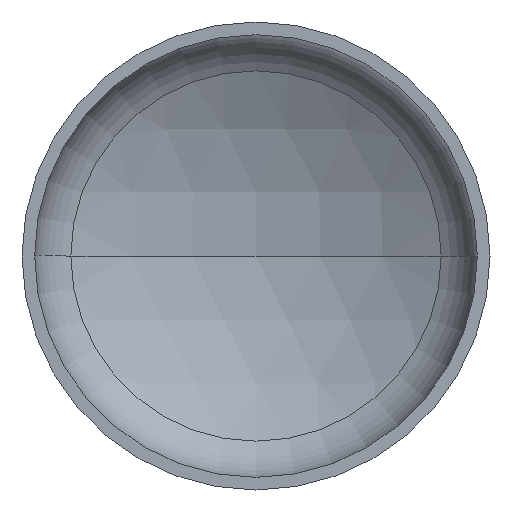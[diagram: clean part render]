
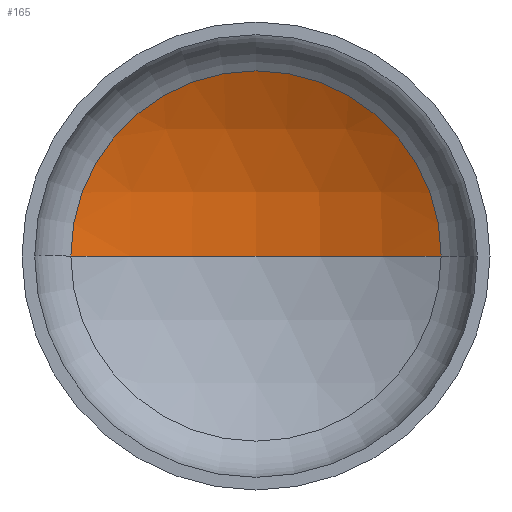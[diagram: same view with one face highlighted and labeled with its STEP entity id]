
A CAD part, front view. The second image highlights one B-rep face of the part: STEP entity #165.
In plain terms, the highlighted spherical face has radius 1360 mm.
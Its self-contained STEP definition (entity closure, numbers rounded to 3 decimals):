
#2 = VERTEX_POINT ( 'NONE', #277 ) ;
#6 = DIRECTION ( 'NONE',  ( 1., 0., 0. ) ) ;
#13 = EDGE_LOOP ( 'NONE', ( #27, #30, #145 ) ) ;
#18 = DIRECTION ( 'NONE',  ( -1., 0., 0. ) ) ;
#23 = AXIS2_PLACEMENT_3D ( 'NONE', #271, #226, #292 ) ;
#27 = ORIENTED_EDGE ( 'NONE', *, *, #104, .F. ) ;
#28 = AXIS2_PLACEMENT_3D ( 'NONE', #209, #354, #375 ) ;
#30 = ORIENTED_EDGE ( 'NONE', *, *, #101, .T. ) ;
#31 = DIRECTION ( 'NONE',  ( 0., 0., -1. ) ) ;
#34 = VERTEX_POINT ( 'NONE', #293 ) ;
#35 = AXIS2_PLACEMENT_3D ( 'NONE', #37, #31, #18 ) ;
#37 = CARTESIAN_POINT ( 'NONE',  ( 0., -816.067, 0. ) ) ;
#40 = AXIS2_PLACEMENT_3D ( 'NONE', #128, #299, #6 ) ;
#100 = EDGE_CURVE ( 'NONE', #116, #2, #314, .T. ) ;
#101 = EDGE_CURVE ( 'NONE', #34, #116, #253, .T. ) ;
#104 = EDGE_CURVE ( 'NONE', #34, #2, #121, .T. ) ;
#116 = VERTEX_POINT ( 'NONE', #203 ) ;
#121 = CIRCLE ( 'NONE', #28, 1360. ) ;
#128 = CARTESIAN_POINT ( 'NONE',  ( 0., 365.979, 0. ) ) ;
#145 = ORIENTED_EDGE ( 'NONE', *, *, #100, .T. ) ;
#165 = ADVANCED_FACE ( 'NONE', ( #248 ), #191, .F. ) ;
#191 = SPHERICAL_SURFACE ( 'NONE', #23, 1360. ) ;
#203 = CARTESIAN_POINT ( 'NONE',  ( 672.582, 365.979, 0. ) ) ;
#209 = CARTESIAN_POINT ( 'NONE',  ( 0., -816.067, 0. ) ) ;
#226 = DIRECTION ( 'NONE',  ( 0., 0., -1. ) ) ;
#248 = FACE_OUTER_BOUND ( 'NONE', #13, .T. ) ;
#253 = CIRCLE ( 'NONE', #35, 1360. ) ;
#271 = CARTESIAN_POINT ( 'NONE',  ( 0., -816.067, 0. ) ) ;
#277 = CARTESIAN_POINT ( 'NONE',  ( -672.582, 365.979, 0. ) ) ;
#292 = DIRECTION ( 'NONE',  ( -1., 0., 0. ) ) ;
#293 = CARTESIAN_POINT ( 'NONE',  ( 0., 543.933, 0. ) ) ;
#299 = DIRECTION ( 'NONE',  ( 0., -1., 0. ) ) ;
#314 = CIRCLE ( 'NONE', #40, 672.582 ) ;
#354 = DIRECTION ( 'NONE',  ( 0., 0., 1. ) ) ;
#375 = DIRECTION ( 'NONE',  ( 1., 0., 0. ) ) ;
